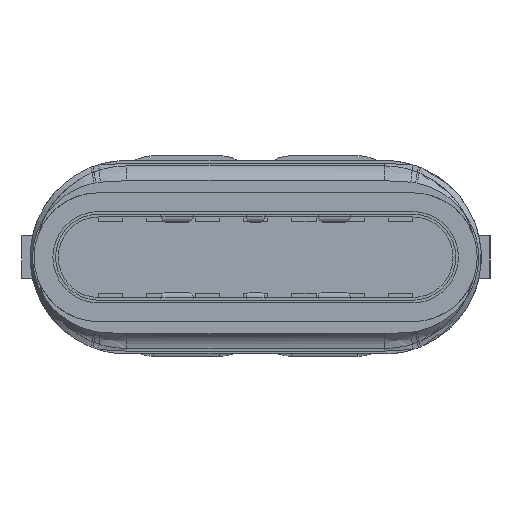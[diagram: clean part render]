
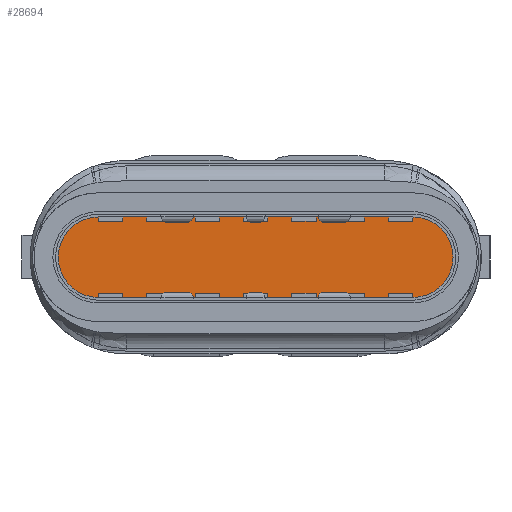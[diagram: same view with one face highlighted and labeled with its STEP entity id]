
A CAD part, front view. The second image highlights one B-rep face of the part: STEP entity #28694.
In plain terms, the highlighted planar face has unit normal (0, -1, 0) as drawn and (0, 0, 1) by its records, which use the part's own axes.
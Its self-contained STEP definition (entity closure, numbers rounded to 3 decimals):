
#28301 = VERTEX_POINT('',#28302);
#28302 = CARTESIAN_POINT('',(-0.657,0.784,
    3.5));
#28308 = EDGE_CURVE('',#28301,#28309,#28311,.T.);
#28309 = VERTEX_POINT('',#28310);
#28310 = CARTESIAN_POINT('',(-0.624,0.77,
    3.5));
#28311 = LINE('',#28312,#28313);
#28312 = CARTESIAN_POINT('',(0.182,0.424,
    3.5));
#28313 = VECTOR('',#28314,1.);
#28314 = DIRECTION('',(0.919,-0.394,0.));
#28340 = VERTEX_POINT('',#28341);
#28341 = CARTESIAN_POINT('',(-1.31,0.915,3.5));
#28347 = EDGE_CURVE('',#28340,#28301,#28348,.T.);
#28348 = CIRCLE('',#28349,1.7);
#28349 = AXIS2_PLACEMENT_3D('',#28350,#28351,#28352);
#28350 = CARTESIAN_POINT('',(-1.31,-0.785,3.5));
#28351 = DIRECTION('',(0.,0.,-1.));
#28352 = DIRECTION('',(-1.,0.,0.));
#28372 = VERTEX_POINT('',#28373);
#28373 = CARTESIAN_POINT('',(-6.11,0.915,
    3.5));
#28379 = EDGE_CURVE('',#28372,#28340,#28380,.T.);
#28380 = LINE('',#28381,#28382);
#28381 = CARTESIAN_POINT('',(0.,0.915,
    3.5));
#28382 = VECTOR('',#28383,1.);
#28383 = DIRECTION('',(1.,0.,0.));
#28404 = VERTEX_POINT('',#28405);
#28405 = CARTESIAN_POINT('',(-6.764,0.784,
    3.5));
#28411 = EDGE_CURVE('',#28404,#28372,#28412,.T.);
#28412 = CIRCLE('',#28413,1.7);
#28413 = AXIS2_PLACEMENT_3D('',#28414,#28415,#28416);
#28414 = CARTESIAN_POINT('',(-6.11,-0.785,3.5));
#28415 = DIRECTION('',(0.,0.,-1.));
#28416 = DIRECTION('',(-1.,0.,0.));
#28436 = VERTEX_POINT('',#28437);
#28437 = CARTESIAN_POINT('',(-6.796,0.771,
    3.5));
#28443 = EDGE_CURVE('',#28436,#28404,#28444,.T.);
#28444 = LINE('',#28445,#28446);
#28445 = CARTESIAN_POINT('',(-1.336,3.113,
    3.5));
#28446 = VECTOR('',#28447,1.);
#28447 = DIRECTION('',(0.919,0.394,0.));
#28471 = VERTEX_POINT('',#28472);
#28472 = CARTESIAN_POINT('',(-6.796,-2.34,
    3.5));
#28478 = EDGE_CURVE('',#28471,#28436,#28479,.T.);
#28479 = B_SPLINE_CURVE_WITH_KNOTS('',3,(#28480,#28481,#28482,#28483,
    #28484,#28485,#28486),.UNSPECIFIED.,.F.,.F.,(4,1,1,1,4),(
    0.,0.25,0.5,0.75,
    1.),.QUASI_UNIFORM_KNOTS.);
#28480 = CARTESIAN_POINT('',(-6.796,-2.34,
    3.5));
#28481 = CARTESIAN_POINT('',(-7.09,-2.203,
    3.5));
#28482 = CARTESIAN_POINT('',(-7.623,-1.764,
    3.5));
#28483 = CARTESIAN_POINT('',(-7.904,-0.785,
    3.5));
#28484 = CARTESIAN_POINT('',(-7.623,0.194,
    3.5));
#28485 = CARTESIAN_POINT('',(-7.089,0.632,
    3.5));
#28486 = CARTESIAN_POINT('',(-6.796,0.771,
    3.5));
#28512 = VERTEX_POINT('',#28513);
#28513 = CARTESIAN_POINT('',(-6.764,-2.354,
    3.5));
#28519 = EDGE_CURVE('',#28512,#28471,#28520,.T.);
#28520 = LINE('',#28521,#28522);
#28521 = CARTESIAN_POINT('',(-1.904,-4.439,
    3.5));
#28522 = VECTOR('',#28523,1.);
#28523 = DIRECTION('',(-0.919,0.394,0.));
#28544 = VERTEX_POINT('',#28545);
#28545 = CARTESIAN_POINT('',(-6.11,-2.485,3.5));
#28551 = EDGE_CURVE('',#28544,#28512,#28552,.T.);
#28552 = CIRCLE('',#28553,1.7);
#28553 = AXIS2_PLACEMENT_3D('',#28554,#28555,#28556);
#28554 = CARTESIAN_POINT('',(-6.11,-0.785,3.5));
#28555 = DIRECTION('',(0.,0.,-1.));
#28556 = DIRECTION('',(-1.,0.,0.));
#28576 = VERTEX_POINT('',#28577);
#28577 = CARTESIAN_POINT('',(-1.31,-2.485,
    3.5));
#28583 = EDGE_CURVE('',#28576,#28544,#28584,.T.);
#28584 = LINE('',#28585,#28586);
#28585 = CARTESIAN_POINT('',(0.,-2.485,
    3.5));
#28586 = VECTOR('',#28587,1.);
#28587 = DIRECTION('',(-1.,0.,0.));
#28608 = VERTEX_POINT('',#28609);
#28609 = CARTESIAN_POINT('',(-0.657,-2.354,
    3.5));
#28615 = EDGE_CURVE('',#28608,#28576,#28616,.T.);
#28616 = CIRCLE('',#28617,1.7);
#28617 = AXIS2_PLACEMENT_3D('',#28618,#28619,#28620);
#28618 = CARTESIAN_POINT('',(-1.31,-0.785,3.5));
#28619 = DIRECTION('',(0.,0.,-1.));
#28620 = DIRECTION('',(-1.,0.,0.));
#28640 = VERTEX_POINT('',#28641);
#28641 = CARTESIAN_POINT('',(-0.625,-2.341,
    3.5));
#28647 = EDGE_CURVE('',#28640,#28608,#28648,.T.);
#28648 = LINE('',#28649,#28650);
#28649 = CARTESIAN_POINT('',(0.751,-1.75,
    3.5));
#28650 = VECTOR('',#28651,1.);
#28651 = DIRECTION('',(-0.919,-0.394,0.));
#28673 = EDGE_CURVE('',#28309,#28640,#28674,.T.);
#28674 = B_SPLINE_CURVE_WITH_KNOTS('',3,(#28675,#28676,#28677,#28678,
    #28679,#28680,#28681),.UNSPECIFIED.,.F.,.F.,(4,1,1,1,4),(
    0.,0.25,0.5,0.75,
    1.),.QUASI_UNIFORM_KNOTS.);
#28675 = CARTESIAN_POINT('',(-0.624,0.77,
    3.5));
#28676 = CARTESIAN_POINT('',(-0.331,0.633,
    3.5));
#28677 = CARTESIAN_POINT('',(0.202,0.194,
    3.5));
#28678 = CARTESIAN_POINT('',(0.483,-0.785,
    3.5));
#28679 = CARTESIAN_POINT('',(0.203,-1.764,
    3.5));
#28680 = CARTESIAN_POINT('',(-0.332,-2.202,
    3.5));
#28681 = CARTESIAN_POINT('',(-0.625,-2.341,
    3.5));
#28694 = ADVANCED_FACE('',(#28695),#28709,.F.);
#28695 = FACE_BOUND('',#28696,.T.);
#28696 = EDGE_LOOP('',(#28697,#28698,#28699,#28700,#28701,#28702,#28703,
    #28704,#28705,#28706,#28707,#28708));
#28697 = ORIENTED_EDGE('',*,*,#28308,.F.);
#28698 = ORIENTED_EDGE('',*,*,#28347,.F.);
#28699 = ORIENTED_EDGE('',*,*,#28379,.F.);
#28700 = ORIENTED_EDGE('',*,*,#28411,.F.);
#28701 = ORIENTED_EDGE('',*,*,#28443,.F.);
#28702 = ORIENTED_EDGE('',*,*,#28478,.F.);
#28703 = ORIENTED_EDGE('',*,*,#28519,.F.);
#28704 = ORIENTED_EDGE('',*,*,#28551,.F.);
#28705 = ORIENTED_EDGE('',*,*,#28583,.F.);
#28706 = ORIENTED_EDGE('',*,*,#28615,.F.);
#28707 = ORIENTED_EDGE('',*,*,#28647,.F.);
#28708 = ORIENTED_EDGE('',*,*,#28673,.F.);
#28709 = PLANE('',#28710);
#28710 = AXIS2_PLACEMENT_3D('',#28711,#28712,#28713);
#28711 = CARTESIAN_POINT('',(0.,0.,3.5));
#28712 = DIRECTION('',(0.,0.,-1.));
#28713 = DIRECTION('',(-1.,0.,0.));
